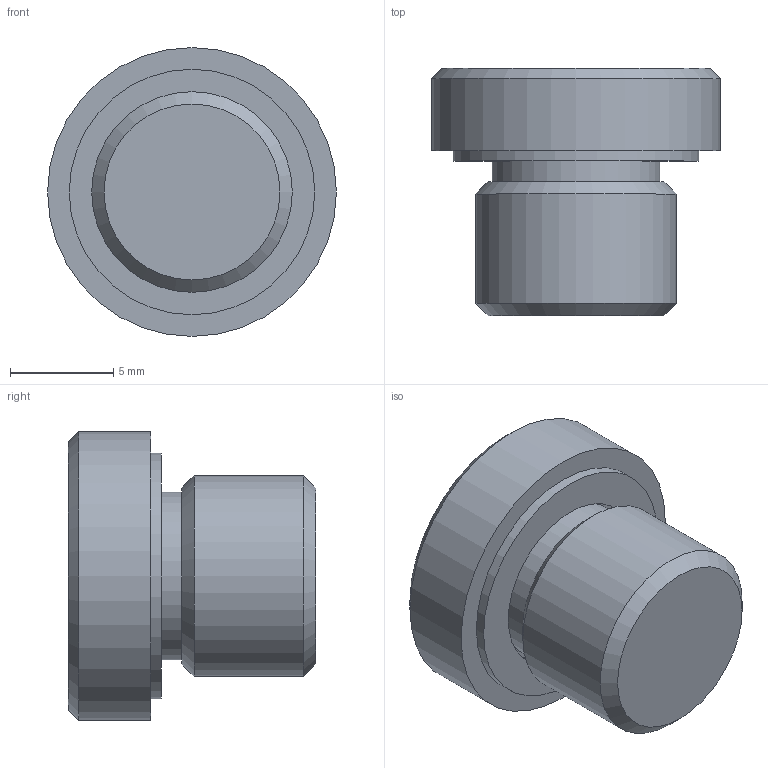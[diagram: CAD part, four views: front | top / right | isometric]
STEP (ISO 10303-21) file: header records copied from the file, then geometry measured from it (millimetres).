
FILE_DESCRIPTION( ( 'STEP AP203' ), '1' );
FILE_NAME( 'C:/Temp/Ganter_Step_05_03_2020/data/3_5/gn749/gn749_b/Threaded plug GN 749-G1_8-B.stp', '2020-03-12T13:41:38', ( 'License CC BY-ND 4.0' ), ( 'CADENAS' ), ' ', 'PARTsolutions', ' ' );
FILE_SCHEMA( ( 'CONFIG_CONTROL_DESIGN' ) );
Length unit declared in the file: millimetre
Products named in the file (1): _Threaded plug GN 749-G1/8-B
Bounding box: 14 x 12 x 14 mm (x, y, z)
Volume: 1101.2 mm3; surface area: 831.4 mm2
Topology: 1 solids, 1 shells, 21 faces, 41 edges, 27 vertices
Faces by surface type: plane 13, cylinder 5, cone 3
Full cylindrical faces by diameter (mm): 8.128 x1, 8.528 x1, 9.728 x1, 11.9 x1, 14 x1
Entity records: 526 total; most frequent: DIRECTION 88, CARTESIAN_POINT 78, ORIENTED_EDGE 62, AXIS2_PLACEMENT_3D 35, EDGE_LOOP 34, EDGE_CURVE 31, FACE_OUTER_BOUND 26, VERTEX_POINT 25
